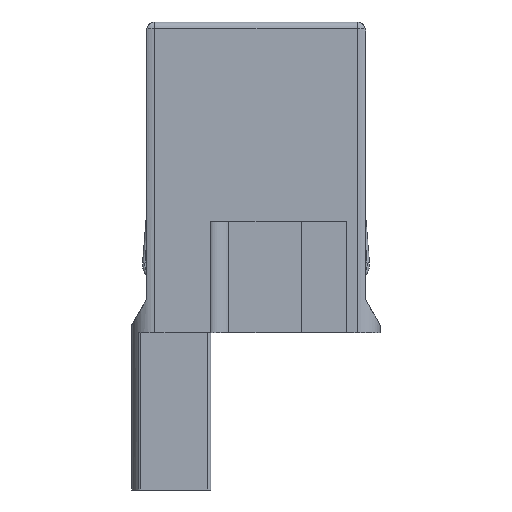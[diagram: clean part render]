
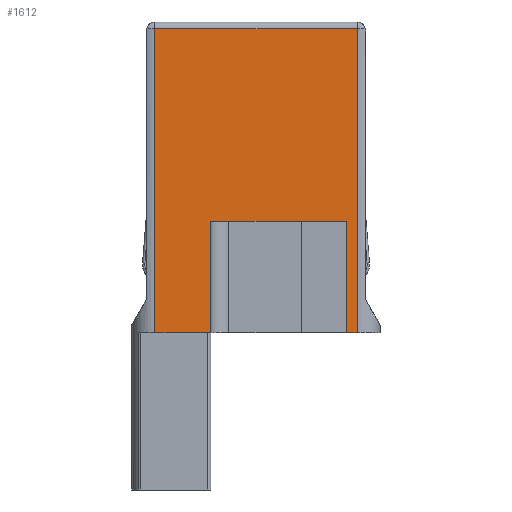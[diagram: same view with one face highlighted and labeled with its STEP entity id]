
A CAD part, front view. The second image highlights one B-rep face of the part: STEP entity #1612.
In plain terms, the highlighted planar face has unit normal (0, -1, 0).
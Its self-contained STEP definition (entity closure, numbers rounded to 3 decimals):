
#505=DIRECTION('',(1.,0.,0.));
#506=VECTOR('',#505,8.509);
#507=CARTESIAN_POINT('',(-4.254,-1.524,-0.279));
#508=LINE('',#507,#506);
#509=DIRECTION('',(0.,0.,-1.));
#510=VECTOR('',#509,12.802);
#511=CARTESIAN_POINT('',(4.254,-1.524,-0.279));
#512=LINE('',#511,#510);
#513=DIRECTION('',(0.,0.,1.));
#514=VECTOR('',#513,4.699);
#515=CARTESIAN_POINT('',(3.81,-1.524,-13.081));
#516=LINE('',#515,#514);
#517=DIRECTION('',(-1.,0.,0.));
#518=VECTOR('',#517,5.715);
#519=CARTESIAN_POINT('',(3.81,-1.524,-8.382));
#520=LINE('',#519,#518);
#521=DIRECTION('',(0.,0.,1.));
#522=VECTOR('',#521,4.699);
#523=CARTESIAN_POINT('',(-1.905,-1.524,-13.081));
#524=LINE('',#523,#522);
#525=DIRECTION('',(0.,0.,-1.));
#526=VECTOR('',#525,12.802);
#527=CARTESIAN_POINT('',(-4.254,-1.524,-0.279));
#528=LINE('',#527,#526);
#550=DIRECTION('',(1.,0.,0.));
#551=VECTOR('',#550,0.445);
#552=CARTESIAN_POINT('',(3.81,-1.524,-13.081));
#553=LINE('',#552,#551);
#564=DIRECTION('',(1.,0.,0.));
#565=VECTOR('',#564,2.35);
#566=CARTESIAN_POINT('',(-4.255,-1.524,-13.081));
#567=LINE('',#566,#565);
#952=CARTESIAN_POINT('',(-1.905,-1.524,-8.382));
#953=VERTEX_POINT('',#952);
#954=CARTESIAN_POINT('',(3.81,-1.524,-8.382));
#955=VERTEX_POINT('',#954);
#956=CARTESIAN_POINT('',(-1.905,-1.524,-13.081));
#957=VERTEX_POINT('',#956);
#958=CARTESIAN_POINT('',(3.81,-1.524,-13.081));
#959=VERTEX_POINT('',#958);
#992=CARTESIAN_POINT('',(-4.254,-1.524,-0.279));
#993=CARTESIAN_POINT('',(4.254,-1.524,-0.279));
#994=VERTEX_POINT('',#992);
#995=VERTEX_POINT('',#993);
#1091=CARTESIAN_POINT('',(-4.255,-1.524,-13.081));
#1092=VERTEX_POINT('',#1091);
#1093=CARTESIAN_POINT('',(4.255,-1.524,-13.081));
#1094=VERTEX_POINT('',#1093);
#1591=CARTESIAN_POINT('',(-4.61,-1.524,0.));
#1592=DIRECTION('',(0.,-1.,0.));
#1593=DIRECTION('',(1.,0.,0.));
#1594=AXIS2_PLACEMENT_3D('',#1591,#1592,#1593);
#1595=PLANE('',#1594);
#1596=ORIENTED_EDGE('',*,*,#1583,.T.);
#1597=ORIENTED_EDGE('',*,*,#1558,.T.);
#1599=ORIENTED_EDGE('',*,*,#1598,.F.);
#1601=ORIENTED_EDGE('',*,*,#1600,.T.);
#1603=ORIENTED_EDGE('',*,*,#1602,.T.);
#1605=ORIENTED_EDGE('',*,*,#1604,.F.);
#1607=ORIENTED_EDGE('',*,*,#1606,.F.);
#1609=ORIENTED_EDGE('',*,*,#1608,.F.);
#1610=EDGE_LOOP('',(#1596,#1597,#1599,#1601,#1603,#1605,#1607,#1609));
#1611=FACE_OUTER_BOUND('',#1610,.F.);
#1612=ADVANCED_FACE('',(#1611),#1595,.T.);
#1558=EDGE_CURVE('',#995,#1094,#512,.T.);
#1583=EDGE_CURVE('',#994,#995,#508,.T.);
#1598=EDGE_CURVE('',#959,#1094,#553,.T.);
#1600=EDGE_CURVE('',#959,#955,#516,.T.);
#1602=EDGE_CURVE('',#955,#953,#520,.T.);
#1604=EDGE_CURVE('',#957,#953,#524,.T.);
#1606=EDGE_CURVE('',#1092,#957,#567,.T.);
#1608=EDGE_CURVE('',#994,#1092,#528,.T.);
